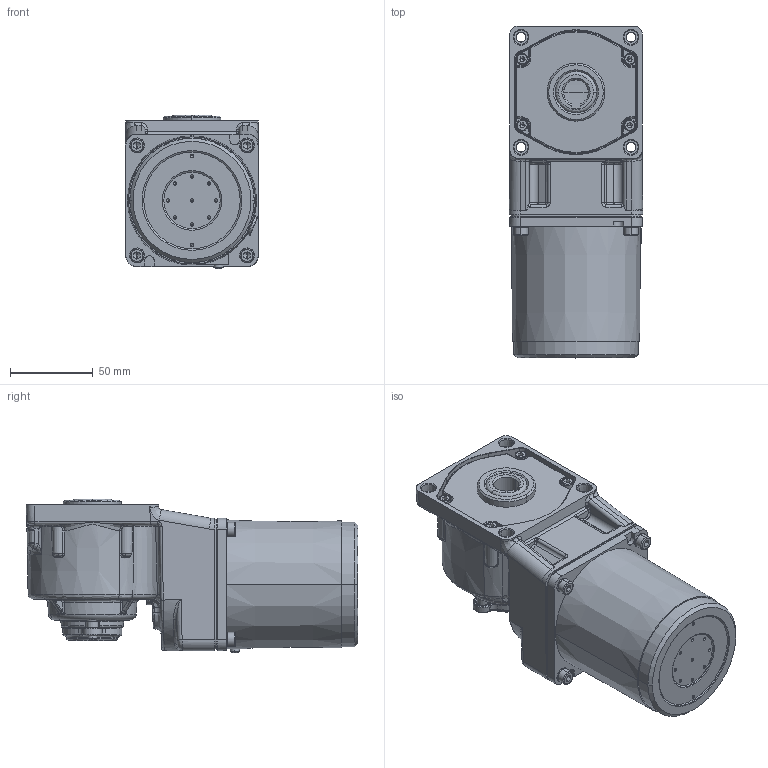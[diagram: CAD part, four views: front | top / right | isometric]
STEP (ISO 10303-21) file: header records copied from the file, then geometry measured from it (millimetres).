
FILE_DESCRIPTION (( 'STEP AP203' ), '1' );
FILE_NAME ('4IK25GN-C(4GN3RC-180RC)ÐÂ.stp', '2022-02-25T05:27:38', ( 'PC' ), ( 'Microsoft' ), 'SwSTEP 2.0', 'SolidWorks 2014', '' );
FILE_SCHEMA (( 'CONFIG_CONTROL_DESIGN' ));
Length unit declared in the file: millimetre
Products named in the file (11): PRT0006_1; zd-4gn1000rc-504-001-20211209（实心外形）; 4IK25GN-C(4GN3RC-180RC)陔; cross recessed pan head screws gb_GB_CROSS_SCREWS_TYPE1 M3X6-6  H type-N; 80眻褒眊裔; 80諾陑怀堤粣; hexagon socket head cap screws gb_GB_FASTENER_SCREWS_HSHCS M4X12-N; M5X20-S^4ik25gn-c-4gn3-180rc_asm(2)_80RC; 4IK25GN-C; 90HXQ_1; 80綴傷裔
Assembly tree (17 placements, depth 2):
  4IK25GN-C(4GN3RC-180RC)陔
    80綴傷裔
    zd-4gn1000rc-504-001-20211209（实心外形）
    cross recessed pan head screws gb_GB_CROSS_SCREWS_TYPE1 M3X6-6  H type-N  x2
    80眻褒眊裔
    80諾陑怀堤粣
    hexagon socket head cap screws gb_GB_FASTENER_SCREWS_HSHCS M4X12-N  x4
    M5X20-S^4ik25gn-c-4gn3-180rc_asm(2)_80RC  x4
    4IK25GN-C
    90HXQ_1
    PRT0006_1
Bounding box: 80.6 x 200.47 x 92.81 mm (x, y, z)
Volume: 625958.1 mm3; surface area: 149231.3 mm2
Topology: 17 solids, 18 shells, 2396 faces, 5459 edges, 3081 vertices
Faces by surface type: cone 906, cylinder 657, bspline 411, plane 348, torus 54, sphere 20
Entity records: 73071 total; most frequent: CARTESIAN_POINT 40251, ORIENTED_EDGE 7098, DIRECTION 5854, EDGE_CURVE 3549, AXIS2_PLACEMENT_3D 2334, VERTEX_POINT 2083, EDGE_LOOP 1636, ADVANCED_FACE 1543
